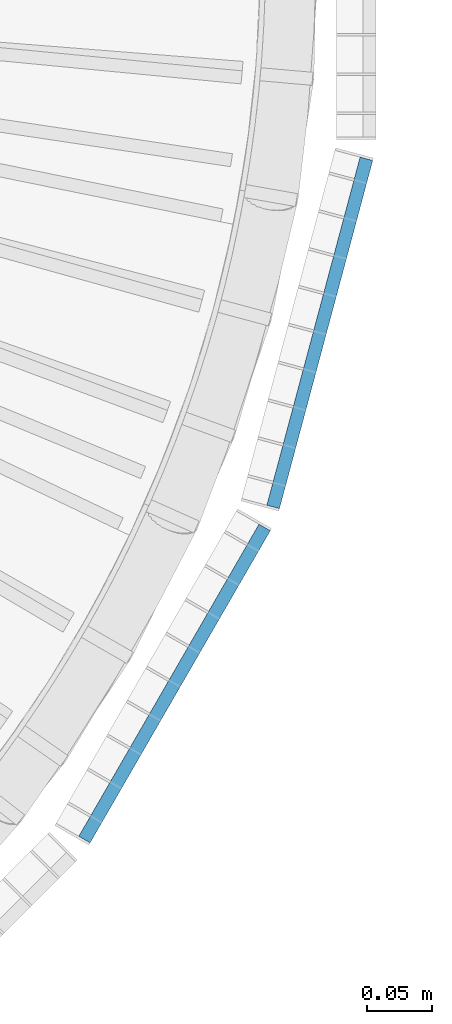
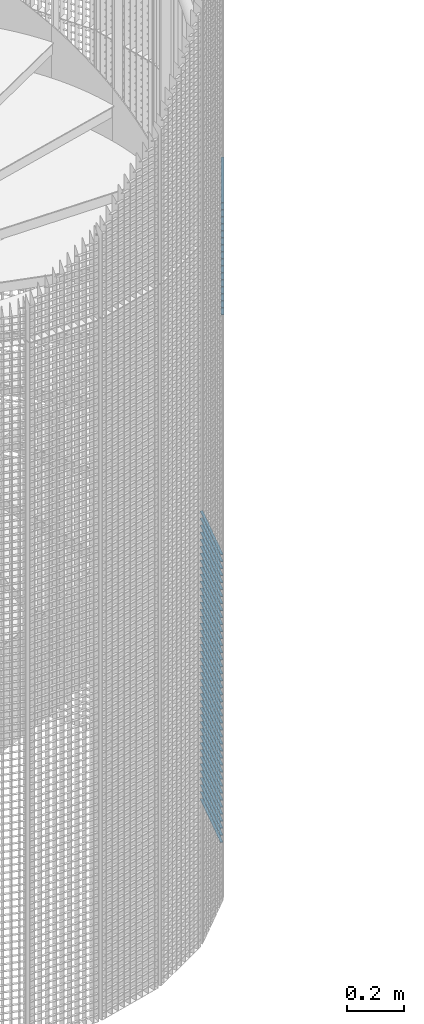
# One storey, part 254 of 1148: 59 beams, 2 elements without a shape of their own.
"""IFC2X3 building model written with IfcOpenShell, lengths in millimetres."""

from ifc_helpers import new_model, si_unit, frame, origin_with_axes, origin_2d_with_axis, place, context, subcontext, project, spatial, rectangle, extrude, material, type_object, element, aggregate, save


model = new_model("IFC2X3")

# Units and contexts
model_context = context("Model", 3, precision=1e-05, world=origin_with_axes())
body_context = subcontext(model_context, "Body", "Model", "MODEL_VIEW")
ifc_project = project(units=[si_unit("LENGTHUNIT", "METRE", prefix="MILLI"), si_unit("AREAUNIT", "SQUARE_METRE"), si_unit("VOLUMEUNIT", "CUBIC_METRE"), si_unit("MASSUNIT", "GRAM", prefix="KILO"), si_unit("TIMEUNIT", "SECOND"), si_unit("PLANEANGLEUNIT", "RADIAN"), si_unit("SOLIDANGLEUNIT", "STERADIAN"), si_unit("THERMODYNAMICTEMPERATUREUNIT", "DEGREE_CELSIUS"), si_unit("LUMINOUSINTENSITYUNIT", "LUMEN")], contexts=[model_context])

# Site, building, storey
site_placement = place(None, origin_with_axes())
site = spatial("IfcSite", under=ifc_project, at=site_placement, Name="Undefined", CompositionType="ELEMENT")
building_placement = place(site_placement, origin_with_axes())
building = spatial("IfcBuilding", under=site, at=building_placement, Name="Undefined", CompositionType="ELEMENT")
storey_placement = place(building_placement, origin_with_axes())
storey = spatial("IfcBuildingStorey", under=building, at=storey_placement, Name="Undefined", CompositionType="ELEMENT", Elevation=0.0)

# Assembly, beams
assembly_1_placement = place(storey_placement, origin_with_axes())
assembly_1 = element("IfcElementAssembly", 1, at=assembly_1_placement, inside=storey, Name="BORDURE", AssemblyPlace="NOTDEFINED", PredefinedType="NOTDEFINED")
ifc_material = material(Name="STEEL/S235JR")
beam_type = type_object("IfcBeamType", Name="PL2*10", PredefinedType="NOTDEFINED")
beam_1_placement = place(assembly_1_placement, frame((1039.82309522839, -421.483733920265, 1260.0), z_axis=(0.965925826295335, -0.258819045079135, 0.0), x_axis=(0.258819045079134, 0.965925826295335, 0.0)))
beam_1 = element("IfcBeam", 2, at=beam_1_placement, type_object=beam_type, material=ifc_material, Name="ENTRETOISE", context=body_context, shape_type="SweptSolid", body=[
    extrude(rectangle(XDim=2.0, YDim=10.0, at=origin_2d_with_axis()), frame((275.999999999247, 9.09494701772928e-13, 1.53210777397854e-14), z_axis=(-1.0, 0.0, 0.0), x_axis=(0.0, -1.0, 0.0)), (0.0, 0.0, 1.0), 276.0),
])
beam_2_placement = place(assembly_1_placement, frame((1039.82309522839, -421.483733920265, 1230.0), z_axis=(0.965925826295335, -0.258819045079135, 0.0), x_axis=(0.258819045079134, 0.965925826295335, 0.0)))
beam_2 = element("IfcBeam", 3, at=beam_2_placement, type_object=beam_type, material=ifc_material, Name="ENTRETOISE", context=body_context, shape_type="SweptSolid", body=[
    extrude(rectangle(XDim=2.0, YDim=10.0, at=origin_2d_with_axis()), frame((275.999999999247, 9.09494701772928e-13, 1.53210777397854e-14), z_axis=(-1.0, 0.0, 0.0), x_axis=(0.0, -1.0, 0.0)), (0.0, 0.0, 1.0), 276.0),
])
beam_3_placement = place(assembly_1_placement, frame((1039.82309522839, -421.483733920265, 1200.0), z_axis=(0.965925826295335, -0.258819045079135, 0.0), x_axis=(0.258819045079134, 0.965925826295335, 0.0)))
beam_3 = element("IfcBeam", 4, at=beam_3_placement, type_object=beam_type, material=ifc_material, Name="ENTRETOISE", context=body_context, shape_type="SweptSolid", body=[
    extrude(rectangle(XDim=2.0, YDim=10.0, at=origin_2d_with_axis()), frame((275.999999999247, 9.09494701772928e-13, 1.53210777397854e-14), z_axis=(-1.0, 0.0, 0.0), x_axis=(0.0, -1.0, 0.0)), (0.0, 0.0, 1.0), 276.0),
])
beam_4_placement = place(assembly_1_placement, frame((1039.82309522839, -421.483733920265, 1170.0), z_axis=(0.965925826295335, -0.258819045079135, 0.0), x_axis=(0.258819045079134, 0.965925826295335, 0.0)))
beam_4 = element("IfcBeam", 5, at=beam_4_placement, type_object=beam_type, material=ifc_material, Name="ENTRETOISE", context=body_context, shape_type="SweptSolid", body=[
    extrude(rectangle(XDim=2.0, YDim=10.0, at=origin_2d_with_axis()), frame((275.999999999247, 9.09494701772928e-13, 1.53210777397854e-14), z_axis=(-1.0, 0.0, 0.0), x_axis=(0.0, -1.0, 0.0)), (0.0, 0.0, 1.0), 276.0),
])
beam_5_placement = place(assembly_1_placement, frame((1039.82309522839, -421.483733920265, 1140.0), z_axis=(0.965925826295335, -0.258819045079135, 0.0), x_axis=(0.258819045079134, 0.965925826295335, 0.0)))
beam_5 = element("IfcBeam", 6, at=beam_5_placement, type_object=beam_type, material=ifc_material, Name="ENTRETOISE", context=body_context, shape_type="SweptSolid", body=[
    extrude(rectangle(XDim=2.0, YDim=10.0, at=origin_2d_with_axis()), frame((275.999999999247, 9.09494701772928e-13, 1.53210777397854e-14), z_axis=(-1.0, 0.0, 0.0), x_axis=(0.0, -1.0, 0.0)), (0.0, 0.0, 1.0), 276.0),
])
beam_6_placement = place(assembly_1_placement, frame((1039.82309522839, -421.483733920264, 719.999999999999), z_axis=(0.965925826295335, -0.258819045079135, 0.0), x_axis=(0.258819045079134, 0.965925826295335, 0.0)))
beam_6 = element("IfcBeam", 7, at=beam_6_placement, type_object=beam_type, material=ifc_material, Name="ENTRETOISE", context=body_context, shape_type="SweptSolid", body=[
    extrude(rectangle(XDim=2.0, YDim=10.0, at=origin_2d_with_axis()), frame((275.999999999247, 9.09494701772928e-13, 1.53210777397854e-14), z_axis=(-1.0, 0.0, 0.0), x_axis=(0.0, -1.0, 0.0)), (0.0, 0.0, 1.0), 276.0),
])
beam_7_placement = place(assembly_1_placement, frame((1039.82309522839, -421.483733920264, 689.999999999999), z_axis=(0.965925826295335, -0.258819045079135, 0.0), x_axis=(0.258819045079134, 0.965925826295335, 0.0)))
beam_7 = element("IfcBeam", 8, at=beam_7_placement, type_object=beam_type, material=ifc_material, Name="ENTRETOISE", context=body_context, shape_type="SweptSolid", body=[
    extrude(rectangle(XDim=2.0, YDim=10.0, at=origin_2d_with_axis()), frame((275.999999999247, 9.09494701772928e-13, 1.53210777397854e-14), z_axis=(-1.0, 0.0, 0.0), x_axis=(0.0, -1.0, 0.0)), (0.0, 0.0, 1.0), 276.0),
])
beam_8_placement = place(assembly_1_placement, frame((1039.82309522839, -421.483733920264, 749.999999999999), z_axis=(0.965925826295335, -0.258819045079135, 0.0), x_axis=(0.258819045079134, 0.965925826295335, 0.0)))
beam_8 = element("IfcBeam", 9, at=beam_8_placement, type_object=beam_type, material=ifc_material, Name="ENTRETOISE", context=body_context, shape_type="SweptSolid", body=[
    extrude(rectangle(XDim=2.0, YDim=10.0, at=origin_2d_with_axis()), frame((275.999999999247, 9.09494701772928e-13, 1.53210777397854e-14), z_axis=(-1.0, 0.0, 0.0), x_axis=(0.0, -1.0, 0.0)), (0.0, 0.0, 1.0), 276.0),
])
beam_9_placement = place(assembly_1_placement, frame((1039.82309522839, -421.483733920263, 659.999999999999), z_axis=(0.965925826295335, -0.258819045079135, 0.0), x_axis=(0.258819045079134, 0.965925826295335, 0.0)))
beam_9 = element("IfcBeam", 10, at=beam_9_placement, type_object=beam_type, material=ifc_material, Name="ENTRETOISE", context=body_context, shape_type="SweptSolid", body=[
    extrude(rectangle(XDim=2.0, YDim=10.0, at=origin_2d_with_axis()), frame((275.999999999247, 9.09494701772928e-13, 1.53210777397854e-14), z_axis=(-1.0, 0.0, 0.0), x_axis=(0.0, -1.0, 0.0)), (0.0, 0.0, 1.0), 276.0),
])
beam_10_placement = place(assembly_1_placement, frame((1039.82309522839, -421.483733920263, 629.999999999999), z_axis=(0.965925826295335, -0.258819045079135, 0.0), x_axis=(0.258819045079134, 0.965925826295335, 0.0)))
beam_10 = element("IfcBeam", 11, at=beam_10_placement, type_object=beam_type, material=ifc_material, Name="ENTRETOISE", context=body_context, shape_type="SweptSolid", body=[
    extrude(rectangle(XDim=2.0, YDim=10.0, at=origin_2d_with_axis()), frame((275.999999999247, 9.09494701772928e-13, 1.53210777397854e-14), z_axis=(-1.0, 0.0, 0.0), x_axis=(0.0, -1.0, 0.0)), (0.0, 0.0, 1.0), 276.0),
])
beam_11_placement = place(assembly_1_placement, frame((1039.82309522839, -421.483733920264, 779.999999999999), z_axis=(0.965925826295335, -0.258819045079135, 0.0), x_axis=(0.258819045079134, 0.965925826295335, 0.0)))
beam_11 = element("IfcBeam", 12, at=beam_11_placement, type_object=beam_type, material=ifc_material, Name="ENTRETOISE", context=body_context, shape_type="SweptSolid", body=[
    extrude(rectangle(XDim=2.0, YDim=10.0, at=origin_2d_with_axis()), frame((275.999999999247, 9.09494701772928e-13, 1.53210777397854e-14), z_axis=(-1.0, 0.0, 0.0), x_axis=(0.0, -1.0, 0.0)), (0.0, 0.0, 1.0), 276.0),
])
beam_12_placement = place(assembly_1_placement, frame((1039.82309522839, -421.483733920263, 599.999999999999), z_axis=(0.965925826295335, -0.258819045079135, 0.0), x_axis=(0.258819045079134, 0.965925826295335, 0.0)))
beam_12 = element("IfcBeam", 13, at=beam_12_placement, type_object=beam_type, material=ifc_material, Name="ENTRETOISE", context=body_context, shape_type="SweptSolid", body=[
    extrude(rectangle(XDim=2.0, YDim=10.0, at=origin_2d_with_axis()), frame((275.999999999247, 9.09494701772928e-13, 1.53210777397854e-14), z_axis=(-1.0, 0.0, 0.0), x_axis=(0.0, -1.0, 0.0)), (0.0, 0.0, 1.0), 276.0),
])
beam_13_placement = place(assembly_1_placement, frame((1039.82309522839, -421.483733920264, 809.999999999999), z_axis=(0.965925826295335, -0.258819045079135, 0.0), x_axis=(0.258819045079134, 0.965925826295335, 0.0)))
beam_13 = element("IfcBeam", 14, at=beam_13_placement, type_object=beam_type, material=ifc_material, Name="ENTRETOISE", context=body_context, shape_type="SweptSolid", body=[
    extrude(rectangle(XDim=2.0, YDim=10.0, at=origin_2d_with_axis()), frame((275.999999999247, 9.09494701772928e-13, 1.53210777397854e-14), z_axis=(-1.0, 0.0, 0.0), x_axis=(0.0, -1.0, 0.0)), (0.0, 0.0, 1.0), 276.0),
])
beam_14_placement = place(assembly_1_placement, frame((1039.82309522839, -421.483733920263, 569.999999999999), z_axis=(0.965925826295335, -0.258819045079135, 0.0), x_axis=(0.258819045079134, 0.965925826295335, 0.0)))
beam_14 = element("IfcBeam", 15, at=beam_14_placement, type_object=beam_type, material=ifc_material, Name="ENTRETOISE", context=body_context, shape_type="SweptSolid", body=[
    extrude(rectangle(XDim=2.0, YDim=10.0, at=origin_2d_with_axis()), frame((275.999999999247, 9.09494701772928e-13, 1.53210777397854e-14), z_axis=(-1.0, 0.0, 0.0), x_axis=(0.0, -1.0, 0.0)), (0.0, 0.0, 1.0), 276.0),
])
beam_15_placement = place(assembly_1_placement, frame((1039.82309522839, -421.483733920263, 539.999999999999), z_axis=(0.965925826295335, -0.258819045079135, 0.0), x_axis=(0.258819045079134, 0.965925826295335, 0.0)))
beam_15 = element("IfcBeam", 16, at=beam_15_placement, type_object=beam_type, material=ifc_material, Name="ENTRETOISE", context=body_context, shape_type="SweptSolid", body=[
    extrude(rectangle(XDim=2.0, YDim=10.0, at=origin_2d_with_axis()), frame((275.999999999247, 9.09494701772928e-13, 1.53210777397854e-14), z_axis=(-1.0, 0.0, 0.0), x_axis=(0.0, -1.0, 0.0)), (0.0, 0.0, 1.0), 276.0),
])
beam_16_placement = place(assembly_1_placement, frame((1039.82309522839, -421.483733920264, 839.999999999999), z_axis=(0.965925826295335, -0.258819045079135, 0.0), x_axis=(0.258819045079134, 0.965925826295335, 0.0)))
beam_16 = element("IfcBeam", 17, at=beam_16_placement, type_object=beam_type, material=ifc_material, Name="ENTRETOISE", context=body_context, shape_type="SweptSolid", body=[
    extrude(rectangle(XDim=2.0, YDim=10.0, at=origin_2d_with_axis()), frame((275.999999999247, 9.09494701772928e-13, 1.53210777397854e-14), z_axis=(-1.0, 0.0, 0.0), x_axis=(0.0, -1.0, 0.0)), (0.0, 0.0, 1.0), 276.0),
])
beam_17_placement = place(assembly_1_placement, frame((1039.82309522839, -421.483733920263, 509.999999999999), z_axis=(0.965925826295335, -0.258819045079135, 0.0), x_axis=(0.258819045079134, 0.965925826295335, 0.0)))
beam_17 = element("IfcBeam", 18, at=beam_17_placement, type_object=beam_type, material=ifc_material, Name="ENTRETOISE", context=body_context, shape_type="SweptSolid", body=[
    extrude(rectangle(XDim=2.0, YDim=10.0, at=origin_2d_with_axis()), frame((275.999999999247, 9.09494701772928e-13, 1.53210777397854e-14), z_axis=(-1.0, 0.0, 0.0), x_axis=(0.0, -1.0, 0.0)), (0.0, 0.0, 1.0), 276.0),
])
beam_18_placement = place(assembly_1_placement, frame((1039.82309522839, -421.483733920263, 479.999999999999), z_axis=(0.965925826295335, -0.258819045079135, 0.0), x_axis=(0.258819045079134, 0.965925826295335, 0.0)))
beam_18 = element("IfcBeam", 19, at=beam_18_placement, type_object=beam_type, material=ifc_material, Name="ENTRETOISE", context=body_context, shape_type="SweptSolid", body=[
    extrude(rectangle(XDim=2.0, YDim=10.0, at=origin_2d_with_axis()), frame((275.999999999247, 9.09494701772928e-13, 1.53210777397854e-14), z_axis=(-1.0, 0.0, 0.0), x_axis=(0.0, -1.0, 0.0)), (0.0, 0.0, 1.0), 276.0),
])
beam_19_placement = place(assembly_1_placement, frame((1039.82309522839, -421.483733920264, 869.999999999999), z_axis=(0.965925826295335, -0.258819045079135, 0.0), x_axis=(0.258819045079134, 0.965925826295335, 0.0)))
beam_19 = element("IfcBeam", 20, at=beam_19_placement, type_object=beam_type, material=ifc_material, Name="ENTRETOISE", context=body_context, shape_type="SweptSolid", body=[
    extrude(rectangle(XDim=2.0, YDim=10.0, at=origin_2d_with_axis()), frame((275.999999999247, 9.09494701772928e-13, 1.53210777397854e-14), z_axis=(-1.0, 0.0, 0.0), x_axis=(0.0, -1.0, 0.0)), (0.0, 0.0, 1.0), 276.0),
])
beam_20_placement = place(assembly_1_placement, frame((1039.82309522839, -421.483733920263, 449.999999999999), z_axis=(0.965925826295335, -0.258819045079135, 0.0), x_axis=(0.258819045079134, 0.965925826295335, 0.0)))
beam_20 = element("IfcBeam", 21, at=beam_20_placement, type_object=beam_type, material=ifc_material, Name="ENTRETOISE", context=body_context, shape_type="SweptSolid", body=[
    extrude(rectangle(XDim=2.0, YDim=10.0, at=origin_2d_with_axis()), frame((275.999999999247, 9.09494701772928e-13, 1.53210777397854e-14), z_axis=(-1.0, 0.0, 0.0), x_axis=(0.0, -1.0, 0.0)), (0.0, 0.0, 1.0), 276.0),
])
beam_21_placement = place(assembly_1_placement, frame((1039.82309522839, -421.483733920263, 419.999999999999), z_axis=(0.965925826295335, -0.258819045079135, 0.0), x_axis=(0.258819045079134, 0.965925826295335, 0.0)))
beam_21 = element("IfcBeam", 22, at=beam_21_placement, type_object=beam_type, material=ifc_material, Name="ENTRETOISE", context=body_context, shape_type="SweptSolid", body=[
    extrude(rectangle(XDim=2.0, YDim=10.0, at=origin_2d_with_axis()), frame((275.999999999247, 9.09494701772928e-13, 1.53210777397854e-14), z_axis=(-1.0, 0.0, 0.0), x_axis=(0.0, -1.0, 0.0)), (0.0, 0.0, 1.0), 276.0),
])
beam_22_placement = place(assembly_1_placement, frame((1039.82309522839, -421.483733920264, 899.999999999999), z_axis=(0.965925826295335, -0.258819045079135, 0.0), x_axis=(0.258819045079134, 0.965925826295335, 0.0)))
beam_22 = element("IfcBeam", 23, at=beam_22_placement, type_object=beam_type, material=ifc_material, Name="ENTRETOISE", context=body_context, shape_type="SweptSolid", body=[
    extrude(rectangle(XDim=2.0, YDim=10.0, at=origin_2d_with_axis()), frame((275.999999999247, 9.09494701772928e-13, 1.53210777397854e-14), z_axis=(-1.0, 0.0, 0.0), x_axis=(0.0, -1.0, 0.0)), (0.0, 0.0, 1.0), 276.0),
])
beam_23_placement = place(assembly_1_placement, frame((1039.82309522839, -421.483733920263, 389.999999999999), z_axis=(0.965925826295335, -0.258819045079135, 0.0), x_axis=(0.258819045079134, 0.965925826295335, 0.0)))
beam_23 = element("IfcBeam", 24, at=beam_23_placement, type_object=beam_type, material=ifc_material, Name="ENTRETOISE", context=body_context, shape_type="SweptSolid", body=[
    extrude(rectangle(XDim=2.0, YDim=10.0, at=origin_2d_with_axis()), frame((275.999999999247, 9.09494701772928e-13, 1.53210777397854e-14), z_axis=(-1.0, 0.0, 0.0), x_axis=(0.0, -1.0, 0.0)), (0.0, 0.0, 1.0), 276.0),
])
beam_24_placement = place(assembly_1_placement, frame((1039.82309522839, -421.483733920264, 929.999999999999), z_axis=(0.965925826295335, -0.258819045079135, 0.0), x_axis=(0.258819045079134, 0.965925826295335, 0.0)))
beam_24 = element("IfcBeam", 25, at=beam_24_placement, type_object=beam_type, material=ifc_material, Name="ENTRETOISE", context=body_context, shape_type="SweptSolid", body=[
    extrude(rectangle(XDim=2.0, YDim=10.0, at=origin_2d_with_axis()), frame((275.999999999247, 9.09494701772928e-13, 1.53210777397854e-14), z_axis=(-1.0, 0.0, 0.0), x_axis=(0.0, -1.0, 0.0)), (0.0, 0.0, 1.0), 276.0),
])
beam_25_placement = place(assembly_1_placement, frame((1039.82309522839, -421.483733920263, 359.999999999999), z_axis=(0.965925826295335, -0.258819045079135, 0.0), x_axis=(0.258819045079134, 0.965925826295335, 0.0)))
beam_25 = element("IfcBeam", 26, at=beam_25_placement, type_object=beam_type, material=ifc_material, Name="ENTRETOISE", context=body_context, shape_type="SweptSolid", body=[
    extrude(rectangle(XDim=2.0, YDim=10.0, at=origin_2d_with_axis()), frame((275.999999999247, 9.09494701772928e-13, 1.53210777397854e-14), z_axis=(-1.0, 0.0, 0.0), x_axis=(0.0, -1.0, 0.0)), (0.0, 0.0, 1.0), 276.0),
])
beam_26_placement = place(assembly_1_placement, frame((1039.82309522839, -421.483733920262, 329.999999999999), z_axis=(0.965925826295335, -0.258819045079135, 0.0), x_axis=(0.258819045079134, 0.965925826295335, 0.0)))
beam_26 = element("IfcBeam", 27, at=beam_26_placement, type_object=beam_type, material=ifc_material, Name="ENTRETOISE", context=body_context, shape_type="SweptSolid", body=[
    extrude(rectangle(XDim=2.0, YDim=10.0, at=origin_2d_with_axis()), frame((275.999999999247, 9.09494701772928e-13, 1.53210777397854e-14), z_axis=(-1.0, 0.0, 0.0), x_axis=(0.0, -1.0, 0.0)), (0.0, 0.0, 1.0), 276.0),
])
beam_27_placement = place(assembly_1_placement, frame((1039.82309522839, -421.483733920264, 959.999999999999), z_axis=(0.965925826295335, -0.258819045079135, 0.0), x_axis=(0.258819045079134, 0.965925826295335, 0.0)))
beam_27 = element("IfcBeam", 28, at=beam_27_placement, type_object=beam_type, material=ifc_material, Name="ENTRETOISE", context=body_context, shape_type="SweptSolid", body=[
    extrude(rectangle(XDim=2.0, YDim=10.0, at=origin_2d_with_axis()), frame((275.999999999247, 9.09494701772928e-13, 1.53210777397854e-14), z_axis=(-1.0, 0.0, 0.0), x_axis=(0.0, -1.0, 0.0)), (0.0, 0.0, 1.0), 276.0),
])
beam_28_placement = place(assembly_1_placement, frame((1039.82309522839, -421.483733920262, 299.999999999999), z_axis=(0.965925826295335, -0.258819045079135, 0.0), x_axis=(0.258819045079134, 0.965925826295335, 0.0)))
beam_28 = element("IfcBeam", 29, at=beam_28_placement, type_object=beam_type, material=ifc_material, Name="ENTRETOISE", context=body_context, shape_type="SweptSolid", body=[
    extrude(rectangle(XDim=2.0, YDim=10.0, at=origin_2d_with_axis()), frame((275.999999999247, 9.09494701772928e-13, 1.53210777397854e-14), z_axis=(-1.0, 0.0, 0.0), x_axis=(0.0, -1.0, 0.0)), (0.0, 0.0, 1.0), 276.0),
])
beam_29_placement = place(assembly_1_placement, frame((1039.82309522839, -421.483733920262, 269.999999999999), z_axis=(0.965925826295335, -0.258819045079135, 0.0), x_axis=(0.258819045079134, 0.965925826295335, 0.0)))
beam_29 = element("IfcBeam", 30, at=beam_29_placement, type_object=beam_type, material=ifc_material, Name="ENTRETOISE", context=body_context, shape_type="SweptSolid", body=[
    extrude(rectangle(XDim=2.0, YDim=10.0, at=origin_2d_with_axis()), frame((275.999999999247, 9.09494701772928e-13, 1.53210777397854e-14), z_axis=(-1.0, 0.0, 0.0), x_axis=(0.0, -1.0, 0.0)), (0.0, 0.0, 1.0), 276.0),
])
beam_30_placement = place(assembly_1_placement, frame((1039.82309522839, -421.483733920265, 989.999999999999), z_axis=(0.965925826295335, -0.258819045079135, 0.0), x_axis=(0.258819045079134, 0.965925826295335, 0.0)))
beam_30 = element("IfcBeam", 31, at=beam_30_placement, type_object=beam_type, material=ifc_material, Name="ENTRETOISE", context=body_context, shape_type="SweptSolid", body=[
    extrude(rectangle(XDim=2.0, YDim=10.0, at=origin_2d_with_axis()), frame((275.999999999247, 9.09494701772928e-13, 1.53210777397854e-14), z_axis=(-1.0, 0.0, 0.0), x_axis=(0.0, -1.0, 0.0)), (0.0, 0.0, 1.0), 276.0),
])
beam_31_placement = place(assembly_1_placement, frame((1039.82309522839, -421.483733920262, 239.999999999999), z_axis=(0.965925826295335, -0.258819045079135, 0.0), x_axis=(0.258819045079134, 0.965925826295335, 0.0)))
beam_31 = element("IfcBeam", 32, at=beam_31_placement, type_object=beam_type, material=ifc_material, Name="ENTRETOISE", context=body_context, shape_type="SweptSolid", body=[
    extrude(rectangle(XDim=2.0, YDim=10.0, at=origin_2d_with_axis()), frame((275.999999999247, 9.09494701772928e-13, 1.53210777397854e-14), z_axis=(-1.0, 0.0, 0.0), x_axis=(0.0, -1.0, 0.0)), (0.0, 0.0, 1.0), 276.0),
])
beam_32_placement = place(assembly_1_placement, frame((1039.82309522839, -421.483733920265, 1020.0), z_axis=(0.965925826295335, -0.258819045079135, 0.0), x_axis=(0.258819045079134, 0.965925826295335, 0.0)))
beam_32 = element("IfcBeam", 33, at=beam_32_placement, type_object=beam_type, material=ifc_material, Name="ENTRETOISE", context=body_context, shape_type="SweptSolid", body=[
    extrude(rectangle(XDim=2.0, YDim=10.0, at=origin_2d_with_axis()), frame((275.999999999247, 9.09494701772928e-13, 1.53210777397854e-14), z_axis=(-1.0, 0.0, 0.0), x_axis=(0.0, -1.0, 0.0)), (0.0, 0.0, 1.0), 276.0),
])
beam_33_placement = place(assembly_1_placement, frame((1039.82309522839, -421.483733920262, 209.999999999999), z_axis=(0.965925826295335, -0.258819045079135, 0.0), x_axis=(0.258819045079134, 0.965925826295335, 0.0)))
beam_33 = element("IfcBeam", 34, at=beam_33_placement, type_object=beam_type, material=ifc_material, Name="ENTRETOISE", context=body_context, shape_type="SweptSolid", body=[
    extrude(rectangle(XDim=2.0, YDim=10.0, at=origin_2d_with_axis()), frame((275.999999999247, 9.09494701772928e-13, 1.53210777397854e-14), z_axis=(-1.0, 0.0, 0.0), x_axis=(0.0, -1.0, 0.0)), (0.0, 0.0, 1.0), 276.0),
])
beam_34_placement = place(assembly_1_placement, frame((1039.82309522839, -421.483733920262, 179.999999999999), z_axis=(0.965925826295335, -0.258819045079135, 0.0), x_axis=(0.258819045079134, 0.965925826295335, 0.0)))
beam_34 = element("IfcBeam", 35, at=beam_34_placement, type_object=beam_type, material=ifc_material, Name="ENTRETOISE", context=body_context, shape_type="SweptSolid", body=[
    extrude(rectangle(XDim=2.0, YDim=10.0, at=origin_2d_with_axis()), frame((275.999999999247, 9.09494701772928e-13, 1.53210777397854e-14), z_axis=(-1.0, 0.0, 0.0), x_axis=(0.0, -1.0, 0.0)), (0.0, 0.0, 1.0), 276.0),
])
beam_35_placement = place(assembly_1_placement, frame((1039.82309522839, -421.483733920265, 1050.0), z_axis=(0.965925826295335, -0.258819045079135, 0.0), x_axis=(0.258819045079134, 0.965925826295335, 0.0)))
beam_35 = element("IfcBeam", 36, at=beam_35_placement, type_object=beam_type, material=ifc_material, Name="ENTRETOISE", context=body_context, shape_type="SweptSolid", body=[
    extrude(rectangle(XDim=2.0, YDim=10.0, at=origin_2d_with_axis()), frame((275.999999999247, 9.09494701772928e-13, 1.53210777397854e-14), z_axis=(-1.0, 0.0, 0.0), x_axis=(0.0, -1.0, 0.0)), (0.0, 0.0, 1.0), 276.0),
])
beam_36_placement = place(assembly_1_placement, frame((1039.82309522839, -421.483733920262, 149.999999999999), z_axis=(0.965925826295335, -0.258819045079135, 0.0), x_axis=(0.258819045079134, 0.965925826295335, 0.0)))
beam_36 = element("IfcBeam", 37, at=beam_36_placement, type_object=beam_type, material=ifc_material, Name="ENTRETOISE", context=body_context, shape_type="SweptSolid", body=[
    extrude(rectangle(XDim=2.0, YDim=10.0, at=origin_2d_with_axis()), frame((275.999999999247, 9.09494701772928e-13, 1.53210777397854e-14), z_axis=(-1.0, 0.0, 0.0), x_axis=(0.0, -1.0, 0.0)), (0.0, 0.0, 1.0), 276.0),
])
beam_37_placement = place(assembly_1_placement, frame((1039.82309522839, -421.483733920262, 119.999999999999), z_axis=(0.965925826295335, -0.258819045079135, 0.0), x_axis=(0.258819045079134, 0.965925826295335, 0.0)))
beam_37 = element("IfcBeam", 38, at=beam_37_placement, type_object=beam_type, material=ifc_material, Name="ENTRETOISE", context=body_context, shape_type="SweptSolid", body=[
    extrude(rectangle(XDim=2.0, YDim=10.0, at=origin_2d_with_axis()), frame((275.999999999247, 9.09494701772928e-13, 1.53210777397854e-14), z_axis=(-1.0, 0.0, 0.0), x_axis=(0.0, -1.0, 0.0)), (0.0, 0.0, 1.0), 276.0),
])
beam_38_placement = place(assembly_1_placement, frame((1039.82309522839, -421.483733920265, 1080.0), z_axis=(0.965925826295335, -0.258819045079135, 0.0), x_axis=(0.258819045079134, 0.965925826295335, 0.0)))
beam_38 = element("IfcBeam", 39, at=beam_38_placement, type_object=beam_type, material=ifc_material, Name="ENTRETOISE", context=body_context, shape_type="SweptSolid", body=[
    extrude(rectangle(XDim=2.0, YDim=10.0, at=origin_2d_with_axis()), frame((275.999999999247, 9.09494701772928e-13, 1.53210777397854e-14), z_axis=(-1.0, 0.0, 0.0), x_axis=(0.0, -1.0, 0.0)), (0.0, 0.0, 1.0), 276.0),
])
beam_39_placement = place(assembly_1_placement, frame((1039.82309522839, -421.483733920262, 89.9999999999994), z_axis=(0.965925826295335, -0.258819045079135, 0.0), x_axis=(0.258819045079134, 0.965925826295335, 0.0)))
beam_39 = element("IfcBeam", 40, at=beam_39_placement, type_object=beam_type, material=ifc_material, Name="ENTRETOISE", context=body_context, shape_type="SweptSolid", body=[
    extrude(rectangle(XDim=2.0, YDim=10.0, at=origin_2d_with_axis()), frame((275.999999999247, 9.09494701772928e-13, 1.53210777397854e-14), z_axis=(-1.0, 0.0, 0.0), x_axis=(0.0, -1.0, 0.0)), (0.0, 0.0, 1.0), 276.0),
])
beam_40_placement = place(assembly_1_placement, frame((1039.82309522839, -421.483733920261, 59.9999999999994), z_axis=(0.965925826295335, -0.258819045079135, 0.0), x_axis=(0.258819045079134, 0.965925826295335, 0.0)))
beam_40 = element("IfcBeam", 41, at=beam_40_placement, type_object=beam_type, material=ifc_material, Name="ENTRETOISE", context=body_context, shape_type="SweptSolid", body=[
    extrude(rectangle(XDim=2.0, YDim=10.0, at=origin_2d_with_axis()), frame((275.999999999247, 9.09494701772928e-13, 1.53210777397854e-14), z_axis=(-1.0, 0.0, 0.0), x_axis=(0.0, -1.0, 0.0)), (0.0, 0.0, 1.0), 276.0),
])
beam_41_placement = place(assembly_1_placement, frame((1039.82309522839, -421.483733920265, 1110.0), z_axis=(0.965925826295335, -0.258819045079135, 0.0), x_axis=(0.258819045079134, 0.965925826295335, 0.0)))
beam_41 = element("IfcBeam", 42, at=beam_41_placement, type_object=beam_type, material=ifc_material, Name="ENTRETOISE", context=body_context, shape_type="SweptSolid", body=[
    extrude(rectangle(XDim=2.0, YDim=10.0, at=origin_2d_with_axis()), frame((275.999999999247, 9.09494701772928e-13, 1.53210777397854e-14), z_axis=(-1.0, 0.0, 0.0), x_axis=(0.0, -1.0, 0.0)), (0.0, 0.0, 1.0), 276.0),
])
beam_42_placement = place(assembly_1_placement, frame((1039.82309522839, -421.48373392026, 29.9999999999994), z_axis=(0.965925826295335, -0.258819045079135, 0.0), x_axis=(0.258819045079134, 0.965925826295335, 0.0)))
beam_42 = element("IfcBeam", 43, at=beam_42_placement, type_object=beam_type, material=ifc_material, Name="ENTRETOISE", context=body_context, shape_type="SweptSolid", body=[
    extrude(rectangle(XDim=2.0, YDim=10.0, at=origin_2d_with_axis()), frame((275.999999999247, 9.09494701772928e-13, 1.53210777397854e-14), z_axis=(-1.0, 0.0, 0.0), x_axis=(0.0, -1.0, 0.0)), (0.0, 0.0, 1.0), 276.0),
])
aggregate(assembly_1, [beam_1, beam_2, beam_3, beam_4, beam_5, beam_6, beam_7, beam_8, beam_9, beam_10, beam_11, beam_12, beam_13, beam_14, beam_15, beam_16, beam_17, beam_18, beam_19, beam_20, beam_21, beam_22, beam_23, beam_24, beam_25, beam_26, beam_27, beam_28, beam_29, beam_30, beam_31, beam_32, beam_33, beam_34, beam_35, beam_36, beam_37, beam_38, beam_39, beam_40, beam_41, beam_42])

assembly_2_placement = place(storey_placement, origin_with_axes())
assembly_2 = element("IfcElementAssembly", 44, at=assembly_2_placement, inside=storey, Name="BORDURE", AssemblyPlace="NOTDEFINED", PredefinedType="NOTDEFINED")
beam_43_placement = place(assembly_2_placement, frame((895.303964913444, -676.248044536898, 2970.0), z_axis=(0.866025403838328, -0.49999999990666, 0.0), x_axis=(0.49999999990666, 0.866025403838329, 0.0)))
beam_43 = element("IfcBeam", 45, at=beam_43_placement, type_object=beam_type, material=ifc_material, Name="ENTRETOISE", context=body_context, shape_type="SweptSolid", body=[
    extrude(rectangle(XDim=2.0, YDim=10.0, at=origin_2d_with_axis()), frame((275.999999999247, 9.09494701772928e-13, 1.53210777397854e-14), z_axis=(-1.0, 0.0, 0.0), x_axis=(0.0, -1.0, 0.0)), (0.0, 0.0, 1.0), 276.0),
])
beam_44_placement = place(assembly_2_placement, frame((895.303964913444, -676.248044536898, 2940.0), z_axis=(0.866025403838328, -0.49999999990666, 0.0), x_axis=(0.49999999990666, 0.866025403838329, 0.0)))
beam_44 = element("IfcBeam", 46, at=beam_44_placement, type_object=beam_type, material=ifc_material, Name="ENTRETOISE", context=body_context, shape_type="SweptSolid", body=[
    extrude(rectangle(XDim=2.0, YDim=10.0, at=origin_2d_with_axis()), frame((275.999999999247, 9.09494701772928e-13, 1.53210777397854e-14), z_axis=(-1.0, 0.0, 0.0), x_axis=(0.0, -1.0, 0.0)), (0.0, 0.0, 1.0), 276.0),
])
beam_45_placement = place(assembly_2_placement, frame((895.303964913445, -676.248044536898, 2910.0), z_axis=(0.866025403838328, -0.49999999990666, 0.0), x_axis=(0.49999999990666, 0.866025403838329, 0.0)))
beam_45 = element("IfcBeam", 47, at=beam_45_placement, type_object=beam_type, material=ifc_material, Name="ENTRETOISE", context=body_context, shape_type="SweptSolid", body=[
    extrude(rectangle(XDim=2.0, YDim=10.0, at=origin_2d_with_axis()), frame((275.999999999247, 9.09494701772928e-13, 1.53210777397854e-14), z_axis=(-1.0, 0.0, 0.0), x_axis=(0.0, -1.0, 0.0)), (0.0, 0.0, 1.0), 276.0),
])
beam_46_placement = place(assembly_2_placement, frame((895.303964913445, -676.248044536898, 2880.0), z_axis=(0.866025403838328, -0.49999999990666, 0.0), x_axis=(0.49999999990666, 0.866025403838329, 0.0)))
beam_46 = element("IfcBeam", 48, at=beam_46_placement, type_object=beam_type, material=ifc_material, Name="ENTRETOISE", context=body_context, shape_type="SweptSolid", body=[
    extrude(rectangle(XDim=2.0, YDim=10.0, at=origin_2d_with_axis()), frame((275.999999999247, 9.09494701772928e-13, 1.53210777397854e-14), z_axis=(-1.0, 0.0, 0.0), x_axis=(0.0, -1.0, 0.0)), (0.0, 0.0, 1.0), 276.0),
])
beam_47_placement = place(assembly_2_placement, frame((895.303964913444, -676.248044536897, 2850.0), z_axis=(0.866025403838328, -0.49999999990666, 0.0), x_axis=(0.49999999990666, 0.866025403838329, 0.0)))
beam_47 = element("IfcBeam", 49, at=beam_47_placement, type_object=beam_type, material=ifc_material, Name="ENTRETOISE", context=body_context, shape_type="SweptSolid", body=[
    extrude(rectangle(XDim=2.0, YDim=10.0, at=origin_2d_with_axis()), frame((275.999999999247, 9.09494701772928e-13, 1.53210777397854e-14), z_axis=(-1.0, 0.0, 0.0), x_axis=(0.0, -1.0, 0.0)), (0.0, 0.0, 1.0), 276.0),
])
beam_48_placement = place(assembly_2_placement, frame((895.303964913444, -676.248044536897, 2820.0), z_axis=(0.866025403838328, -0.49999999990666, 0.0), x_axis=(0.49999999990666, 0.866025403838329, 0.0)))
beam_48 = element("IfcBeam", 50, at=beam_48_placement, type_object=beam_type, material=ifc_material, Name="ENTRETOISE", context=body_context, shape_type="SweptSolid", body=[
    extrude(rectangle(XDim=2.0, YDim=10.0, at=origin_2d_with_axis()), frame((275.999999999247, 9.09494701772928e-13, 1.53210777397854e-14), z_axis=(-1.0, 0.0, 0.0), x_axis=(0.0, -1.0, 0.0)), (0.0, 0.0, 1.0), 276.0),
])
beam_49_placement = place(assembly_2_placement, frame((895.303964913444, -676.248044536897, 2790.0), z_axis=(0.866025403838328, -0.49999999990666, 0.0), x_axis=(0.49999999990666, 0.866025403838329, 0.0)))
beam_49 = element("IfcBeam", 51, at=beam_49_placement, type_object=beam_type, material=ifc_material, Name="ENTRETOISE", context=body_context, shape_type="SweptSolid", body=[
    extrude(rectangle(XDim=2.0, YDim=10.0, at=origin_2d_with_axis()), frame((275.999999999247, 9.09494701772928e-13, 1.53210777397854e-14), z_axis=(-1.0, 0.0, 0.0), x_axis=(0.0, -1.0, 0.0)), (0.0, 0.0, 1.0), 276.0),
])
beam_50_placement = place(assembly_2_placement, frame((895.303964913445, -676.248044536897, 2760.0), z_axis=(0.866025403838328, -0.49999999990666, 0.0), x_axis=(0.49999999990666, 0.866025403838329, 0.0)))
beam_50 = element("IfcBeam", 52, at=beam_50_placement, type_object=beam_type, material=ifc_material, Name="ENTRETOISE", context=body_context, shape_type="SweptSolid", body=[
    extrude(rectangle(XDim=2.0, YDim=10.0, at=origin_2d_with_axis()), frame((275.999999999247, 9.09494701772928e-13, 1.53210777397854e-14), z_axis=(-1.0, 0.0, 0.0), x_axis=(0.0, -1.0, 0.0)), (0.0, 0.0, 1.0), 276.0),
])
beam_51_placement = place(assembly_2_placement, frame((895.303964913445, -676.248044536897, 2730.0), z_axis=(0.866025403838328, -0.49999999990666, 0.0), x_axis=(0.49999999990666, 0.866025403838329, 0.0)))
beam_51 = element("IfcBeam", 53, at=beam_51_placement, type_object=beam_type, material=ifc_material, Name="ENTRETOISE", context=body_context, shape_type="SweptSolid", body=[
    extrude(rectangle(XDim=2.0, YDim=10.0, at=origin_2d_with_axis()), frame((275.999999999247, 9.09494701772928e-13, 1.53210777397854e-14), z_axis=(-1.0, 0.0, 0.0), x_axis=(0.0, -1.0, 0.0)), (0.0, 0.0, 1.0), 276.0),
])
beam_52_placement = place(assembly_2_placement, frame((895.303964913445, -676.248044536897, 2700.0), z_axis=(0.866025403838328, -0.49999999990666, 0.0), x_axis=(0.49999999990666, 0.866025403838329, 0.0)))
beam_52 = element("IfcBeam", 54, at=beam_52_placement, type_object=beam_type, material=ifc_material, Name="ENTRETOISE", context=body_context, shape_type="SweptSolid", body=[
    extrude(rectangle(XDim=2.0, YDim=10.0, at=origin_2d_with_axis()), frame((275.999999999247, 9.09494701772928e-13, 1.53210777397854e-14), z_axis=(-1.0, 0.0, 0.0), x_axis=(0.0, -1.0, 0.0)), (0.0, 0.0, 1.0), 276.0),
])
beam_53_placement = place(assembly_2_placement, frame((895.303964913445, -676.248044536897, 2670.0), z_axis=(0.866025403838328, -0.49999999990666, 0.0), x_axis=(0.49999999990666, 0.866025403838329, 0.0)))
beam_53 = element("IfcBeam", 55, at=beam_53_placement, type_object=beam_type, material=ifc_material, Name="ENTRETOISE", context=body_context, shape_type="SweptSolid", body=[
    extrude(rectangle(XDim=2.0, YDim=10.0, at=origin_2d_with_axis()), frame((275.999999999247, 9.09494701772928e-13, 1.53210777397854e-14), z_axis=(-1.0, 0.0, 0.0), x_axis=(0.0, -1.0, 0.0)), (0.0, 0.0, 1.0), 276.0),
])
beam_54_placement = place(assembly_2_placement, frame((895.303964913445, -676.248044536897, 2640.0), z_axis=(0.866025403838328, -0.49999999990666, 0.0), x_axis=(0.49999999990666, 0.866025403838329, 0.0)))
beam_54 = element("IfcBeam", 56, at=beam_54_placement, type_object=beam_type, material=ifc_material, Name="ENTRETOISE", context=body_context, shape_type="SweptSolid", body=[
    extrude(rectangle(XDim=2.0, YDim=10.0, at=origin_2d_with_axis()), frame((275.999999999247, 9.09494701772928e-13, 1.53210777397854e-14), z_axis=(-1.0, 0.0, 0.0), x_axis=(0.0, -1.0, 0.0)), (0.0, 0.0, 1.0), 276.0),
])
beam_55_placement = place(assembly_2_placement, frame((895.303964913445, -676.248044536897, 2610.0), z_axis=(0.866025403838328, -0.49999999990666, 0.0), x_axis=(0.49999999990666, 0.866025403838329, 0.0)))
beam_55 = element("IfcBeam", 57, at=beam_55_placement, type_object=beam_type, material=ifc_material, Name="ENTRETOISE", context=body_context, shape_type="SweptSolid", body=[
    extrude(rectangle(XDim=2.0, YDim=10.0, at=origin_2d_with_axis()), frame((275.999999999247, 9.09494701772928e-13, 1.53210777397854e-14), z_axis=(-1.0, 0.0, 0.0), x_axis=(0.0, -1.0, 0.0)), (0.0, 0.0, 1.0), 276.0),
])
beam_56_placement = place(assembly_2_placement, frame((895.303964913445, -676.248044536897, 2580.0), z_axis=(0.866025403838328, -0.49999999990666, 0.0), x_axis=(0.49999999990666, 0.866025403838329, 0.0)))
beam_56 = element("IfcBeam", 58, at=beam_56_placement, type_object=beam_type, material=ifc_material, Name="ENTRETOISE", context=body_context, shape_type="SweptSolid", body=[
    extrude(rectangle(XDim=2.0, YDim=10.0, at=origin_2d_with_axis()), frame((275.999999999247, 9.09494701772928e-13, 1.53210777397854e-14), z_axis=(-1.0, 0.0, 0.0), x_axis=(0.0, -1.0, 0.0)), (0.0, 0.0, 1.0), 276.0),
])
beam_57_placement = place(assembly_2_placement, frame((895.303964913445, -676.248044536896, 2550.0), z_axis=(0.866025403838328, -0.49999999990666, 0.0), x_axis=(0.49999999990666, 0.866025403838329, 0.0)))
beam_57 = element("IfcBeam", 59, at=beam_57_placement, type_object=beam_type, material=ifc_material, Name="ENTRETOISE", context=body_context, shape_type="SweptSolid", body=[
    extrude(rectangle(XDim=2.0, YDim=10.0, at=origin_2d_with_axis()), frame((275.999999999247, 9.09494701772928e-13, 1.53210777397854e-14), z_axis=(-1.0, 0.0, 0.0), x_axis=(0.0, -1.0, 0.0)), (0.0, 0.0, 1.0), 276.0),
])
beam_58_placement = place(assembly_2_placement, frame((895.303964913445, -676.248044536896, 2520.0), z_axis=(0.866025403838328, -0.49999999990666, 0.0), x_axis=(0.49999999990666, 0.866025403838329, 0.0)))
beam_58 = element("IfcBeam", 60, at=beam_58_placement, type_object=beam_type, material=ifc_material, Name="ENTRETOISE", context=body_context, shape_type="SweptSolid", body=[
    extrude(rectangle(XDim=2.0, YDim=10.0, at=origin_2d_with_axis()), frame((275.999999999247, 9.09494701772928e-13, 1.53210777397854e-14), z_axis=(-1.0, 0.0, 0.0), x_axis=(0.0, -1.0, 0.0)), (0.0, 0.0, 1.0), 276.0),
])
beam_59_placement = place(assembly_2_placement, frame((895.303964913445, -676.248044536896, 2490.0), z_axis=(0.866025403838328, -0.49999999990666, 0.0), x_axis=(0.49999999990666, 0.866025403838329, 0.0)))
beam_59 = element("IfcBeam", 61, at=beam_59_placement, type_object=beam_type, material=ifc_material, Name="ENTRETOISE", context=body_context, shape_type="SweptSolid", body=[
    extrude(rectangle(XDim=2.0, YDim=10.0, at=origin_2d_with_axis()), frame((275.999999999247, 9.09494701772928e-13, 1.53210777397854e-14), z_axis=(-1.0, 0.0, 0.0), x_axis=(0.0, -1.0, 0.0)), (0.0, 0.0, 1.0), 276.0),
])
aggregate(assembly_2, [beam_43, beam_44, beam_45, beam_46, beam_47, beam_48, beam_49, beam_50, beam_51, beam_52, beam_53, beam_54, beam_55, beam_56, beam_57, beam_58, beam_59])

save(model, "model.ifc")
